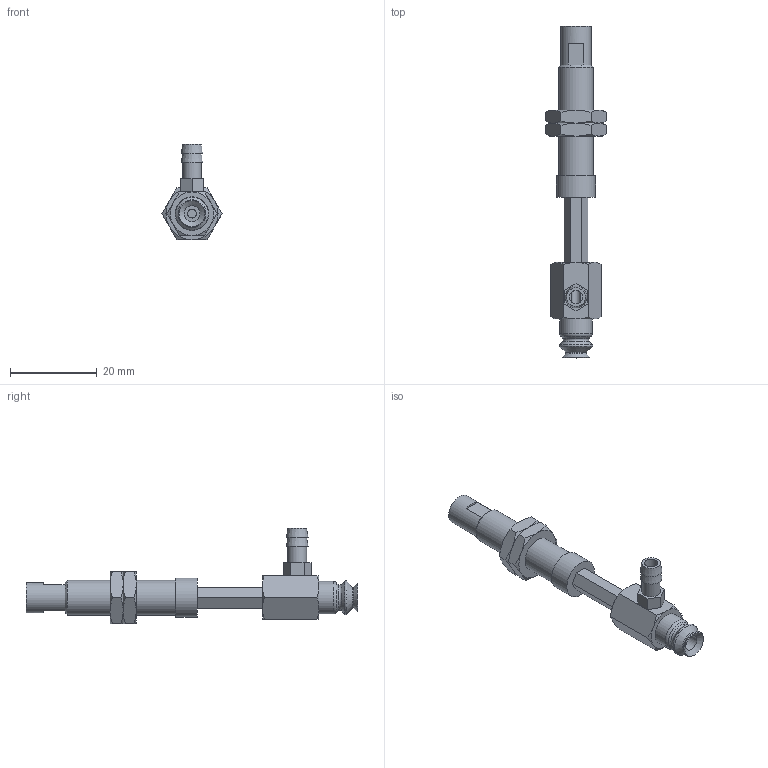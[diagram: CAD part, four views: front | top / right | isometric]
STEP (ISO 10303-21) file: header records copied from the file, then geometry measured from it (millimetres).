
FILE_DESCRIPTION(('STEP AP203'),'1');
FILE_NAME('-T.stp','2025-04-24T05:32:41',(' '),(' '),'Spatial InterOp 3D',' ',' ');
FILE_SCHEMA(('CONFIG_CONTROL_DESIGN'));
Length unit declared in the file: millimetre
Products named in the file (7): BNABPJYH-6-15-※-T; CONNECTOR_H-6-15; NAPJH-6-15-NUT; NAPJTH-6-15-FBODY; NAPJTH-6-15-MBODY; BPJG-6-※; T
Assembly tree (7 placements, depth 2):
  BNABPJYH-6-15-※-T
    CONNECTOR_H-6-15
    NAPJH-6-15-NUT  x2
    NAPJTH-6-15-FBODY
    NAPJTH-6-15-MBODY
    BPJG-6-※
    T
Bounding box: 13.86 x 76.5 x 22 mm (x, y, z)
Volume: 4014.3 mm3; surface area: 5179.7 mm2
Topology: 7 solids, 7 shells, 159 faces, 345 edges, 211 vertices
Faces by surface type: plane 73, cone 57, cylinder 18, torus 11
Full cylindrical faces by diameter (mm): 2 x1, 3 x1, 3.64 x1, 4 x2, 4.134 x2, 4.3 x1, 5 x2, 6 x2, 7 x1, 7.188 x2, 7.5 x1, 8 x1, 9 x1
Entity records: 3966 total; most frequent: CARTESIAN_POINT 904, DIRECTION 566, ORIENTED_EDGE 480, EDGE_CURVE 240, AXIS2_PLACEMENT_3D 236, EDGE_LOOP 204, VERTEX_POINT 172, FACE_OUTER_BOUND 164
